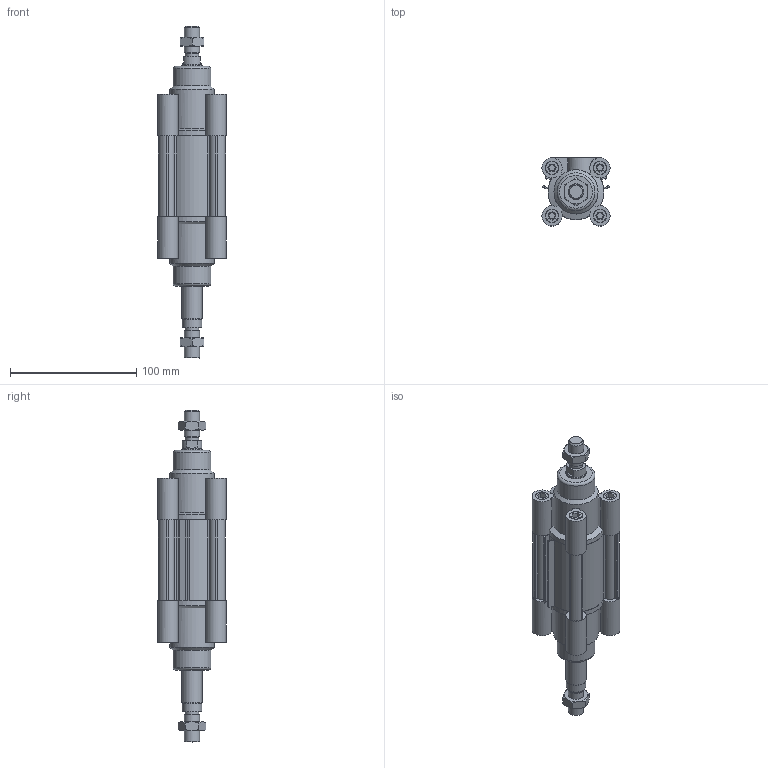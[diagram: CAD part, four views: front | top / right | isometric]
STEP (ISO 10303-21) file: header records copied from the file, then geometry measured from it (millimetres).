
FILE_DESCRIPTION((''),'2;1');
FILE_NAME('I:\Area Tecnica\Disegni\VARIE-3D\Componenti\ECOLIGHT\02\stp\139#_40_0025_02.iam.stp','2012-01-28T09:38:04',(''),(''),'Autodesk Inventor 2012','Autodesk Inventor 2012','');
FILE_SCHEMA(('AUTOMOTIVE_DESIGN { 1 0 10303 214 1 1 1 1 }'));
Length unit declared in the file: millimetre
Products named in the file (5): 139#_40_0025_02; CPL040_004-25; CPL040-001-01; CPL_40SP_0025; 1320_40_18F
Assembly tree (6 placements, depth 2):
  139#_40_0025_02
    CPL040_004-25
    CPL040-001-01  x2
    CPL_40SP_0025
    1320_40_18F  x2
Bounding box: 54 x 54 x 263 mm (x, y, z)
Volume: 273797.6 mm3; surface area: 96205.1 mm2
Topology: 6 solids, 6 shells, 351 faces, 860 edges, 564 vertices
Faces by surface type: plane 211, cylinder 98, cone 40, torus 2
Full cylindrical faces by diameter (mm): 5 x8, 5.5 x4, 8 x2, 10 x8, 10.5 x10, 10.8 x2, 11.6 x2, 12 x2, 15.5 x2, 16 x4, 30 x2, 35 x2, 40 x4
Entity records: 7104 total; most frequent: CARTESIAN_POINT 1295, DIRECTION 1162, ORIENTED_EDGE 1084, EDGE_CURVE 542, AXIS2_PLACEMENT_3D 413, VERTEX_POINT 380, VECTOR 336, LINE 336
